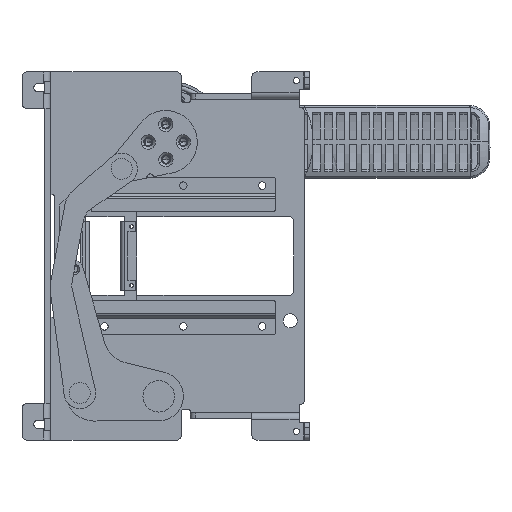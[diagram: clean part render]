
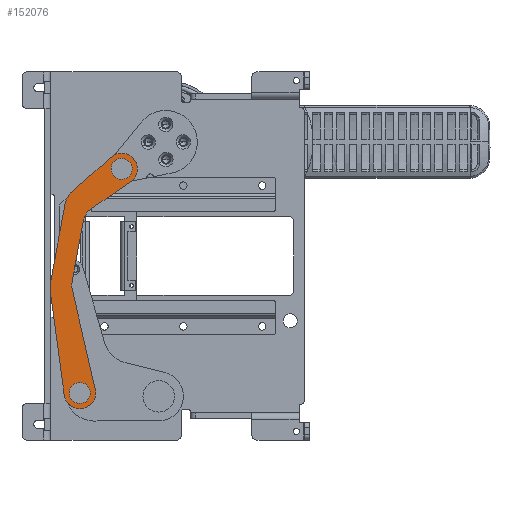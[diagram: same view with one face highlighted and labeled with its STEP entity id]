
A CAD part, front view. The second image highlights one B-rep face of the part: STEP entity #152076.
In plain terms, the highlighted planar face has unit normal (0, -1, 0).
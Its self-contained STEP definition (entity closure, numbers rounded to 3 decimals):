
#125 = DIRECTION ( 'NONE',  ( 0.983, 0., -0.183 ) ) ;
#461 = CARTESIAN_POINT ( 'NONE',  ( -24.005, 168.1, -78.116 ) ) ;
#477 = CARTESIAN_POINT ( 'NONE',  ( -27.937, 168.1, -77.384 ) ) ;
#1488 = VERTEX_POINT ( 'NONE', #63531 ) ;
#1547 = CARTESIAN_POINT ( 'NONE',  ( -24.005, 168.1, -78.116 ) ) ;
#2905 = EDGE_CURVE ( 'NONE', #158998, #100261, #94127, .T. ) ;
#3561 = FACE_BOUND ( 'NONE', #105952, .T. ) ;
#5273 = ORIENTED_EDGE ( 'NONE', *, *, #157552, .T. ) ;
#7034 = DIRECTION ( 'NONE',  ( 0., 1., 0. ) ) ;
#7277 = VERTEX_POINT ( 'NONE', #49346 ) ;
#8269 = CARTESIAN_POINT ( 'NONE',  ( -40.403, 168.1, -13.205 ) ) ;
#9185 = ORIENTED_EDGE ( 'NONE', *, *, #122856, .T. ) ;
#9572 = VECTOR ( 'NONE', #136434, 1000. ) ;
#9709 = DIRECTION ( 'NONE',  ( 0.983, 0., -0.183 ) ) ;
#9979 = DIRECTION ( 'NONE',  ( -0.983, 0., 0.183 ) ) ;
#10726 = AXIS2_PLACEMENT_3D ( 'NONE', #119488, #7034, #9709 ) ;
#14090 = ORIENTED_EDGE ( 'NONE', *, *, #148749, .T. ) ;
#14743 = VERTEX_POINT ( 'NONE', #47615 ) ;
#15284 = EDGE_CURVE ( 'NONE', #157741, #14743, #159924, .T. ) ;
#18450 = CARTESIAN_POINT ( 'NONE',  ( -21.96, 168.1, 20.302 ) ) ;
#19387 = EDGE_CURVE ( 'NONE', #84875, #85521, #98538, .T. ) ;
#20223 = AXIS2_PLACEMENT_3D ( 'NONE', #138170, #116242, #28489 ) ;
#26110 = AXIS2_PLACEMENT_3D ( 'NONE', #28473, #116347, #124543 ) ;
#28197 = AXIS2_PLACEMENT_3D ( 'NONE', #461, #96557, #78356 ) ;
#28225 = ORIENTED_EDGE ( 'NONE', *, *, #15284, .F. ) ;
#28473 = CARTESIAN_POINT ( 'NONE',  ( -0.215, 168.1, 49.689 ) ) ;
#28489 = DIRECTION ( 'NONE',  ( 0.983, 0., -0.183 ) ) ;
#29100 = CARTESIAN_POINT ( 'NONE',  ( 4.877, 168.1, 42.267 ) ) ;
#30224 = ORIENTED_EDGE ( 'NONE', *, *, #77176, .F. ) ;
#31209 = CARTESIAN_POINT ( 'NONE',  ( -6.208, 168.1, 56.404 ) ) ;
#31228 = EDGE_CURVE ( 'NONE', #121778, #1488, #79594, .T. ) ;
#31506 = CARTESIAN_POINT ( 'NONE',  ( -28.171, 168.1, -19.863 ) ) ;
#32558 = EDGE_LOOP ( 'NONE', ( #28225, #30224, #140707, #46509, #65591, #125489, #73415, #114963, #94868, #45947, #139080, #108806 ) ) ;
#35700 = DIRECTION ( 'NONE',  ( -0.983, 0., 0.183 ) ) ;
#37224 = CIRCLE ( 'NONE', #156969, 4. ) ;
#38088 = VECTOR ( 'NONE', #125176, 1000. ) ;
#38295 = EDGE_CURVE ( 'NONE', #1488, #111000, #92586, .T. ) ;
#39012 = EDGE_LOOP ( 'NONE', ( #14090, #133489 ) ) ;
#41992 = DIRECTION ( 'NONE',  ( 0., 1., 0. ) ) ;
#43117 = CIRCLE ( 'NONE', #127340, 4. ) ;
#43576 = AXIS2_PLACEMENT_3D ( 'NONE', #55617, #151712, #9979 ) ;
#43623 = DIRECTION ( 'NONE',  ( 0.224, 0., -0.975 ) ) ;
#43903 = CARTESIAN_POINT ( 'NONE',  ( -22.471, 168.1, 28.488 ) ) ;
#45947 = ORIENTED_EDGE ( 'NONE', *, *, #38295, .F. ) ;
#46044 = CIRCLE ( 'NONE', #28197, 9. ) ;
#46509 = ORIENTED_EDGE ( 'NONE', *, *, #145288, .F. ) ;
#46631 = CARTESIAN_POINT ( 'NONE',  ( -12.129, 168.1, 18.472 ) ) ;
#47615 = CARTESIAN_POINT ( 'NONE',  ( 4.877, 168.1, 42.267 ) ) ;
#47625 = DIRECTION ( 'NONE',  ( 0.746, 0., 0.666 ) ) ;
#48966 = VECTOR ( 'NONE', #43623, 1000. ) ;
#49346 = CARTESIAN_POINT ( 'NONE',  ( -20.073, 168.1, -78.848 ) ) ;
#49420 = EDGE_CURVE ( 'NONE', #14743, #121778, #103271, .T. ) ;
#51360 = VERTEX_POINT ( 'NONE', #60268 ) ;
#52196 = DIRECTION ( 'NONE',  ( 0., 1., 0. ) ) ;
#53230 = VERTEX_POINT ( 'NONE', #477 ) ;
#55617 = CARTESIAN_POINT ( 'NONE',  ( -13.859, 168.1, -18.146 ) ) ;
#60268 = CARTESIAN_POINT ( 'NONE',  ( 3.717, 168.1, 48.957 ) ) ;
#63531 = CARTESIAN_POINT ( 'NONE',  ( -21.96, 168.1, 20.302 ) ) ;
#64315 = DIRECTION ( 'NONE',  ( 0., 1., 0. ) ) ;
#65591 = ORIENTED_EDGE ( 'NONE', *, *, #2905, .F. ) ;
#66815 = CARTESIAN_POINT ( 'NONE',  ( -0.215, 168.1, 49.689 ) ) ;
#66999 = AXIS2_PLACEMENT_3D ( 'NONE', #46631, #142712, #164722 ) ;
#68300 = CARTESIAN_POINT ( 'NONE',  ( -28.171, 168.1, -19.863 ) ) ;
#68691 = CARTESIAN_POINT ( 'NONE',  ( -0.215, 168.1, 49.689 ) ) ;
#69036 = CARTESIAN_POINT ( 'NONE',  ( -6.208, 168.1, 56.404 ) ) ;
#73415 = ORIENTED_EDGE ( 'NONE', *, *, #115899, .F. ) ;
#73595 = CARTESIAN_POINT ( 'NONE',  ( -28.3, 168.1, -13.755 ) ) ;
#74327 = VECTOR ( 'NONE', #116173, 1000. ) ;
#75633 = CARTESIAN_POINT ( 'NONE',  ( -4.148, 168.1, 50.421 ) ) ;
#77176 = EDGE_CURVE ( 'NONE', #148182, #157741, #88943, .T. ) ;
#78298 = AXIS2_PLACEMENT_3D ( 'NONE', #156307, #142681, #128897 ) ;
#78356 = DIRECTION ( 'NONE',  ( 0.983, 0., -0.183 ) ) ;
#79594 = CIRCLE ( 'NONE', #66999, 10. ) ;
#81616 = DIRECTION ( 'NONE',  ( -0.132, 0., 0.991 ) ) ;
#83134 = FACE_BOUND ( 'NONE', #39012, .T. ) ;
#84148 = EDGE_CURVE ( 'NONE', #164583, #148182, #158698, .T. ) ;
#84875 = VERTEX_POINT ( 'NONE', #31506 ) ;
#85521 = VERTEX_POINT ( 'NONE', #99587 ) ;
#88943 = LINE ( 'NONE', #31209, #124789 ) ;
#89587 = CARTESIAN_POINT ( 'NONE',  ( -29.129, 168.1, 35.949 ) ) ;
#92586 = LINE ( 'NONE', #18450, #9572 ) ;
#93831 = EDGE_CURVE ( 'NONE', #7277, #53230, #43117, .T. ) ;
#94127 = CIRCLE ( 'NONE', #43576, 27. ) ;
#94291 = CARTESIAN_POINT ( 'NONE',  ( -40.621, 168.1, -21.722 ) ) ;
#94579 = VECTOR ( 'NONE', #81616, 1000. ) ;
#94868 = ORIENTED_EDGE ( 'NONE', *, *, #129214, .F. ) ;
#96557 = DIRECTION ( 'NONE',  ( 0., 1., 0. ) ) ;
#98538 = LINE ( 'NONE', #68300, #48966 ) ;
#99587 = CARTESIAN_POINT ( 'NONE',  ( -15.234, 168.1, -76.098 ) ) ;
#100122 = CARTESIAN_POINT ( 'NONE',  ( -32.302, 168.1, 30.318 ) ) ;
#100261 = VERTEX_POINT ( 'NONE', #8269 ) ;
#102648 = LINE ( 'NONE', #146384, #74327 ) ;
#103271 = LINE ( 'NONE', #29100, #38088 ) ;
#104951 = CIRCLE ( 'NONE', #26110, 4. ) ;
#105757 = VERTEX_POINT ( 'NONE', #135640 ) ;
#105952 = EDGE_LOOP ( 'NONE', ( #5273, #9185 ) ) ;
#108257 = AXIS2_PLACEMENT_3D ( 'NONE', #43903, #161995, #35700 ) ;
#108806 = ORIENTED_EDGE ( 'NONE', *, *, #49420, .F. ) ;
#111000 = VERTEX_POINT ( 'NONE', #73595 ) ;
#114963 = ORIENTED_EDGE ( 'NONE', *, *, #19387, .F. ) ;
#115899 = EDGE_CURVE ( 'NONE', #85521, #105757, #46044, .T. ) ;
#116173 = DIRECTION ( 'NONE',  ( 0.183, 0., 0.983 ) ) ;
#116242 = DIRECTION ( 'NONE',  ( 0., 1., 0. ) ) ;
#116347 = DIRECTION ( 'NONE',  ( 0., 1., 0. ) ) ;
#117196 = CARTESIAN_POINT ( 'NONE',  ( -40.621, 168.1, -21.722 ) ) ;
#118951 = DIRECTION ( 'NONE',  ( 0.983, 0., -0.183 ) ) ;
#119488 = CARTESIAN_POINT ( 'NONE',  ( -0.215, 168.1, 49.689 ) ) ;
#121778 = VERTEX_POINT ( 'NONE', #143387 ) ;
#122002 = VERTEX_POINT ( 'NONE', #75633 ) ;
#122856 = EDGE_CURVE ( 'NONE', #51360, #122002, #37224, .T. ) ;
#124483 = AXIS2_PLACEMENT_3D ( 'NONE', #66815, #41992, #118951 ) ;
#124543 = DIRECTION ( 'NONE',  ( 0.983, 0., -0.183 ) ) ;
#124789 = VECTOR ( 'NONE', #47625, 1000. ) ;
#125176 = DIRECTION ( 'NONE',  ( -0.825, 0., -0.566 ) ) ;
#125489 = ORIENTED_EDGE ( 'NONE', *, *, #134921, .F. ) ;
#127340 = AXIS2_PLACEMENT_3D ( 'NONE', #1547, #64315, #149311 ) ;
#128897 = DIRECTION ( 'NONE',  ( 0.983, 0., -0.183 ) ) ;
#129214 = EDGE_CURVE ( 'NONE', #111000, #84875, #151846, .T. ) ;
#133489 = ORIENTED_EDGE ( 'NONE', *, *, #93831, .T. ) ;
#134921 = EDGE_CURVE ( 'NONE', #105757, #158998, #166657, .T. ) ;
#135640 = CARTESIAN_POINT ( 'NONE',  ( -32.926, 168.1, -79.308 ) ) ;
#136434 = DIRECTION ( 'NONE',  ( -0.183, 0., -0.983 ) ) ;
#138170 = CARTESIAN_POINT ( 'NONE',  ( -24.005, 168.1, -78.116 ) ) ;
#139080 = ORIENTED_EDGE ( 'NONE', *, *, #31228, .F. ) ;
#140707 = ORIENTED_EDGE ( 'NONE', *, *, #84148, .F. ) ;
#142681 = DIRECTION ( 'NONE',  ( 0., -1., 0. ) ) ;
#142712 = DIRECTION ( 'NONE',  ( 0., -1., 0. ) ) ;
#143387 = CARTESIAN_POINT ( 'NONE',  ( -17.787, 168.1, 26.717 ) ) ;
#143476 = FACE_OUTER_BOUND ( 'NONE', #32558, .T. ) ;
#143603 = PLANE ( 'NONE',  #124483 ) ;
#145288 = EDGE_CURVE ( 'NONE', #100261, #164583, #102648, .T. ) ;
#146384 = CARTESIAN_POINT ( 'NONE',  ( -32.302, 168.1, 30.318 ) ) ;
#148182 = VERTEX_POINT ( 'NONE', #89587 ) ;
#148749 = EDGE_CURVE ( 'NONE', #53230, #7277, #151583, .T. ) ;
#149311 = DIRECTION ( 'NONE',  ( 0.983, 0., -0.183 ) ) ;
#151583 = CIRCLE ( 'NONE', #20223, 4. ) ;
#151712 = DIRECTION ( 'NONE',  ( 0., 1., 0. ) ) ;
#151846 = CIRCLE ( 'NONE', #78298, 15. ) ;
#152076 = ADVANCED_FACE ( 'NONE', ( #3561, #143476, #83134 ), #143603, .F. ) ;
#156307 = CARTESIAN_POINT ( 'NONE',  ( -13.553, 168.1, -16.5 ) ) ;
#156969 = AXIS2_PLACEMENT_3D ( 'NONE', #68691, #52196, #125 ) ;
#157552 = EDGE_CURVE ( 'NONE', #122002, #51360, #104951, .T. ) ;
#157741 = VERTEX_POINT ( 'NONE', #69036 ) ;
#158698 = CIRCLE ( 'NONE', #108257, 10. ) ;
#158998 = VERTEX_POINT ( 'NONE', #94291 ) ;
#159924 = CIRCLE ( 'NONE', #10726, 9. ) ;
#161995 = DIRECTION ( 'NONE',  ( 0., 1., 0. ) ) ;
#164583 = VERTEX_POINT ( 'NONE', #100122 ) ;
#164722 = DIRECTION ( 'NONE',  ( -0.983, 0., 0.183 ) ) ;
#166657 = LINE ( 'NONE', #117196, #94579 ) ;
